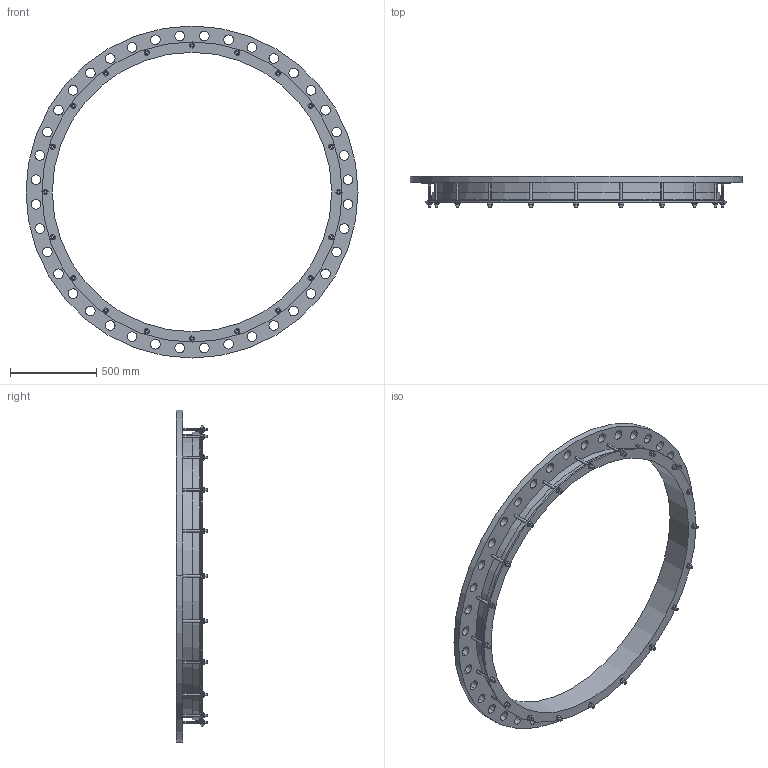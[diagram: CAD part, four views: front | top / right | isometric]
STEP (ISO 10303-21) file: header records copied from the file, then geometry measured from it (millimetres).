
FILE_DESCRIPTION((''),'2;1');
FILE_NAME('1620X1600PN16','2019-01-17T',('mfairey'),('Glynwed Pipe Systems'),'CREO PARAMETRIC BY PTC INC, 2016130','CREO PARAMETRIC BY PTC INC, 2016130','');
FILE_SCHEMA(('CONFIG_CONTROL_DESIGN'));
Length unit declared in the file: millimetre
Products named in the file (1): 1620X1600PN16
Bounding box: 1930 x 182 x 1930 mm (x, y, z)
Volume: 42550091.5 mm3; surface area: 4010710 mm2
Topology: 1 solids, 1 shells, 398 faces, 1058 edges, 704 vertices
Faces by surface type: cylinder 208, plane 184, cone 4, torus 2
Entity records: 14214 total; most frequent: CARTESIAN_POINT 3768, DIRECTION 2172, ORIENTED_EDGE 2116, EDGE_CURVE 1058, AXIS2_PLACEMENT_3D 800, VERTEX_POINT 704, VECTOR 572, LINE 572
